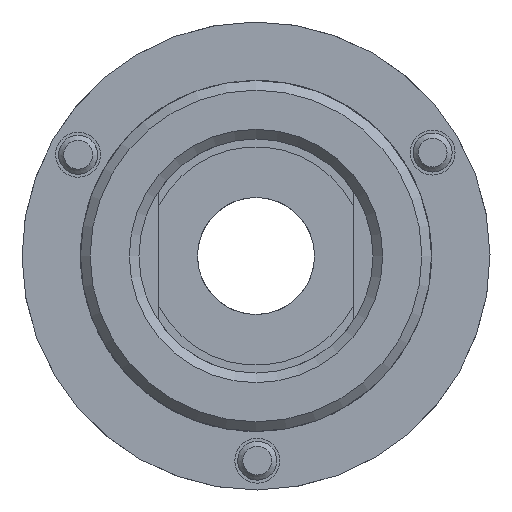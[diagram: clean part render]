
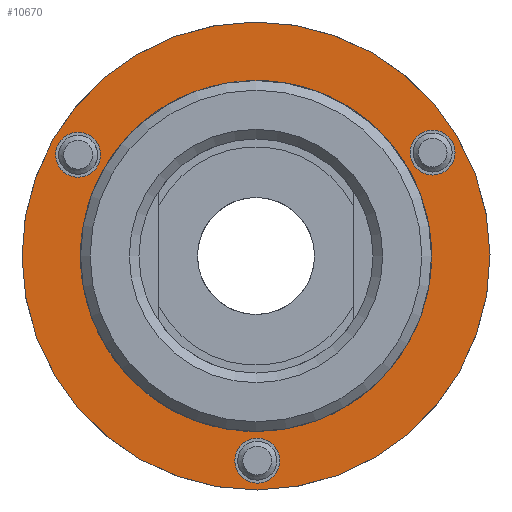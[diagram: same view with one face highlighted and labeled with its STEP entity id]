
A CAD part, front view. The second image highlights one B-rep face of the part: STEP entity #10670.
In plain terms, the highlighted planar face has unit normal (0, -1, 0).
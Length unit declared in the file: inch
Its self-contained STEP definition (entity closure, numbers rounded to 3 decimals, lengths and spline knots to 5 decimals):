
#10506=CARTESIAN_POINT('',(-0.21146,0.81783,0.32875));
#10507=VERTEX_POINT('',#10506);
#10508=CARTESIAN_POINT('',(-0.13946,0.81783,0.32875));
#10509=DIRECTION('',(0.0,1.0,0.0));
#10510=DIRECTION('',(1.0,0.0,0.0));
#10511=AXIS2_PLACEMENT_3D('',#10508,#10509,#10510);
#10512=CIRCLE('',#10511,0.072);
#10513=EDGE_CURVE('',#10507,#10507,#10512,.T.);
#10534=CARTESIAN_POINT('',(-1.34768,0.81783,0.32725));
#10535=VERTEX_POINT('',#10534);
#10536=CARTESIAN_POINT('',(-1.27568,0.81783,0.32725));
#10537=DIRECTION('',(0.0,1.0,0.0));
#10538=DIRECTION('',(1.0,0.0,0.0));
#10539=AXIS2_PLACEMENT_3D('',#10536,#10537,#10538);
#10540=CIRCLE('',#10539,0.072);
#10541=EDGE_CURVE('',#10535,#10535,#10540,.T.);
#10562=CARTESIAN_POINT('',(-0.77827,0.81783,-0.656));
#10563=VERTEX_POINT('',#10562);
#10564=CARTESIAN_POINT('',(-0.70627,0.81783,-0.656));
#10565=DIRECTION('',(0.0,1.0,0.0));
#10566=DIRECTION('',(1.0,0.0,0.0));
#10567=AXIS2_PLACEMENT_3D('',#10564,#10565,#10566);
#10568=CIRCLE('',#10567,0.072);
#10569=EDGE_CURVE('',#10563,#10563,#10568,.T.);
#10627=CARTESIAN_POINT('',(0.04286,0.81783,0.0));
#10628=VERTEX_POINT('',#10627);
#10629=CARTESIAN_POINT('',(-0.70714,0.81783,0.0));
#10630=DIRECTION('',(0.0,-1.0,0.0));
#10631=DIRECTION('',(1.0,0.0,0.0));
#10632=AXIS2_PLACEMENT_3D('',#10629,#10630,#10631);
#10633=CIRCLE('',#10632,0.75);
#10634=EDGE_CURVE('',#10628,#10628,#10633,.T.);
#10642=CARTESIAN_POINT('',(-0.12914,0.81783,0.0));
#10643=DIRECTION('',(0.0,-1.0,0.0));
#10644=DIRECTION('',(0.0,0.0,-1.0));
#10645=AXIS2_PLACEMENT_3D('',#10642,#10643,#10644);
#10646=PLANE('',#10645);
#10647=ORIENTED_EDGE('',*,*,#10634,.T.);
#10648=EDGE_LOOP('',(#10647));
#10649=FACE_OUTER_BOUND('',#10648,.T.);
#10650=ORIENTED_EDGE('',*,*,#10513,.T.);
#10651=EDGE_LOOP('',(#10650));
#10652=FACE_BOUND('',#10651,.T.);
#10653=ORIENTED_EDGE('',*,*,#10541,.T.);
#10654=EDGE_LOOP('',(#10653));
#10655=FACE_BOUND('',#10654,.T.);
#10656=ORIENTED_EDGE('',*,*,#10569,.T.);
#10657=EDGE_LOOP('',(#10656));
#10658=FACE_BOUND('',#10657,.T.);
#10659=CARTESIAN_POINT('',(-0.30114,0.81783,0.0));
#10660=VERTEX_POINT('',#10659);
#10661=CARTESIAN_POINT('',(-0.70714,0.81783,0.0));
#10662=DIRECTION('',(0.0,-1.0,0.0));
#10663=DIRECTION('',(1.0,0.0,0.0));
#10664=AXIS2_PLACEMENT_3D('',#10661,#10662,#10663);
#10665=CIRCLE('',#10664,0.406);
#10666=EDGE_CURVE('',#10660,#10660,#10665,.T.);
#10667=ORIENTED_EDGE('',*,*,#10666,.F.);
#10668=EDGE_LOOP('',(#10667));
#10669=FACE_BOUND('',#10668,.T.);
#10670=ADVANCED_FACE('',(#10649,#10652,#10655,#10658,#10669),#10646,.T.);
